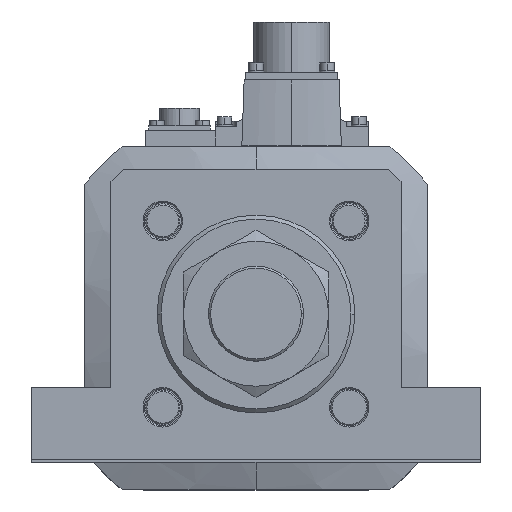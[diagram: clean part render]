
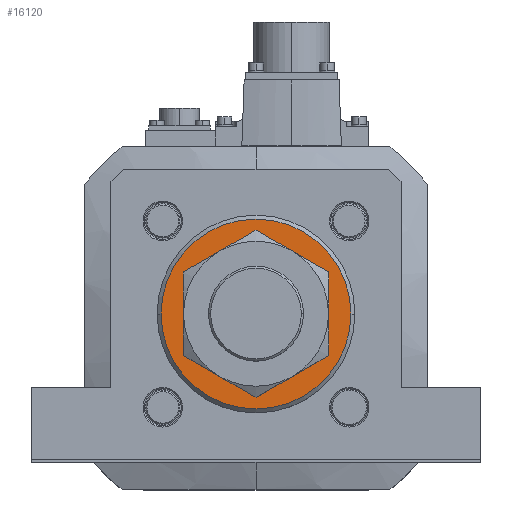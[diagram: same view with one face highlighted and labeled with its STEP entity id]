
A CAD part, top view. The second image highlights one B-rep face of the part: STEP entity #16120.
In plain terms, the highlighted planar face has unit normal (0, 0, 1).
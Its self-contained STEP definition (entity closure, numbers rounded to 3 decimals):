
#250 = EDGE_CURVE ( 'NONE', #16572, #34225, #31256, .T. ) ;
#1104 = DIRECTION ( 'NONE',  ( 1., 0., 0. ) ) ;
#2709 = CARTESIAN_POINT ( 'NONE',  ( 23., 0., 646. ) ) ;
#3270 = EDGE_LOOP ( 'NONE', ( #17875, #13238 ) ) ;
#3596 = EDGE_CURVE ( 'NONE', #4529, #29653, #12783, .T. ) ;
#3816 = DIRECTION ( 'NONE',  ( 0., 0., -1. ) ) ;
#4068 = DIRECTION ( 'NONE',  ( 1., 0., 0. ) ) ;
#4529 = VERTEX_POINT ( 'NONE', #25193 ) ;
#6912 = DIRECTION ( 'NONE',  ( 0., 0., 1. ) ) ;
#8392 = CARTESIAN_POINT ( 'NONE',  ( 36., 0., 646. ) ) ;
#8462 = FACE_OUTER_BOUND ( 'NONE', #3270, .T. ) ;
#11025 = DIRECTION ( 'NONE',  ( 0., 0., 1. ) ) ;
#12345 = CIRCLE ( 'NONE', #33325, 23. ) ;
#12783 = CIRCLE ( 'NONE', #31978, 36. ) ;
#13238 = ORIENTED_EDGE ( 'NONE', *, *, #28209, .T. ) ;
#13311 = CARTESIAN_POINT ( 'NONE',  ( 0., 0., 646. ) ) ;
#13802 = DIRECTION ( 'NONE',  ( 1., 0., 0. ) ) ;
#15950 = CARTESIAN_POINT ( 'NONE',  ( 0., 0., 646. ) ) ;
#16120 = ADVANCED_FACE ( 'NONE', ( #24616, #8462 ), #25067, .T. ) ;
#16572 = VERTEX_POINT ( 'NONE', #30081 ) ;
#16758 = CIRCLE ( 'NONE', #19478, 36. ) ;
#16836 = CARTESIAN_POINT ( 'NONE',  ( 0., 0., 646. ) ) ;
#16962 = DIRECTION ( 'NONE',  ( 1., 0., 0. ) ) ;
#17875 = ORIENTED_EDGE ( 'NONE', *, *, #3596, .T. ) ;
#19403 = AXIS2_PLACEMENT_3D ( 'NONE', #33103, #3816, #4068 ) ;
#19478 = AXIS2_PLACEMENT_3D ( 'NONE', #15950, #21754, #1104 ) ;
#20142 = DIRECTION ( 'NONE',  ( 0., 0., -1. ) ) ;
#21754 = DIRECTION ( 'NONE',  ( 0., 0., 1. ) ) ;
#24616 = FACE_BOUND ( 'NONE', #26286, .T. ) ;
#25067 = PLANE ( 'NONE',  #31053 ) ;
#25096 = EDGE_CURVE ( 'NONE', #34225, #16572, #12345, .T. ) ;
#25193 = CARTESIAN_POINT ( 'NONE',  ( -36., 0., 646. ) ) ;
#26286 = EDGE_LOOP ( 'NONE', ( #32794, #36769 ) ) ;
#27558 = DIRECTION ( 'NONE',  ( 1., 0., 0. ) ) ;
#28209 = EDGE_CURVE ( 'NONE', #29653, #4529, #16758, .T. ) ;
#29653 = VERTEX_POINT ( 'NONE', #8392 ) ;
#30081 = CARTESIAN_POINT ( 'NONE',  ( -23., 0., 646. ) ) ;
#31053 = AXIS2_PLACEMENT_3D ( 'NONE', #13311, #6912, #27558 ) ;
#31256 = CIRCLE ( 'NONE', #19403, 23. ) ;
#31978 = AXIS2_PLACEMENT_3D ( 'NONE', #16836, #11025, #16962 ) ;
#32794 = ORIENTED_EDGE ( 'NONE', *, *, #25096, .T. ) ;
#33103 = CARTESIAN_POINT ( 'NONE',  ( 0., 0., 646. ) ) ;
#33325 = AXIS2_PLACEMENT_3D ( 'NONE', #34732, #20142, #13802 ) ;
#34225 = VERTEX_POINT ( 'NONE', #2709 ) ;
#34732 = CARTESIAN_POINT ( 'NONE',  ( 0., 0., 646. ) ) ;
#36769 = ORIENTED_EDGE ( 'NONE', *, *, #250, .T. ) ;
